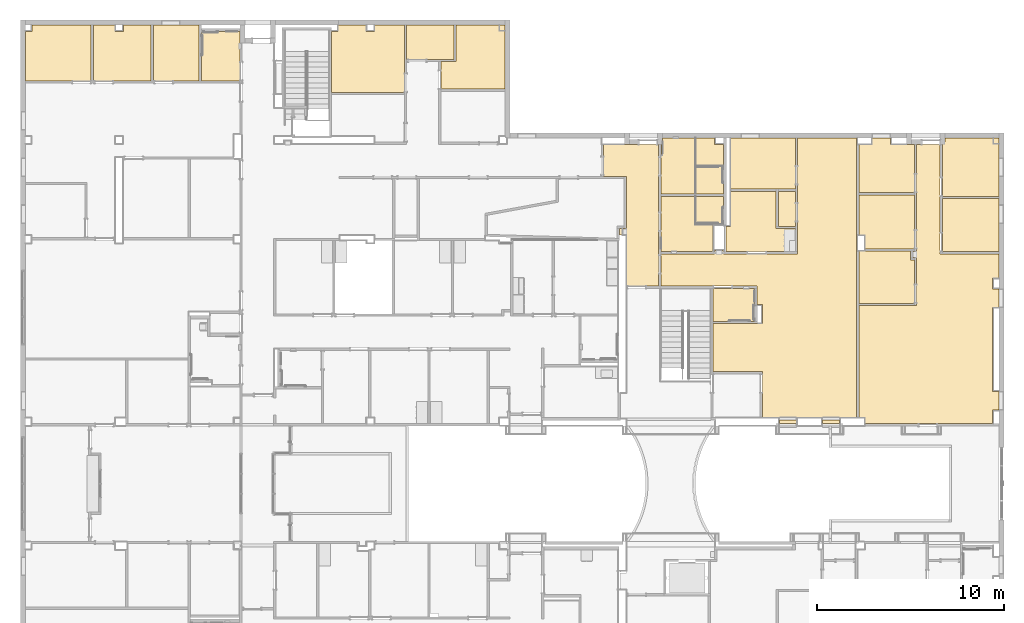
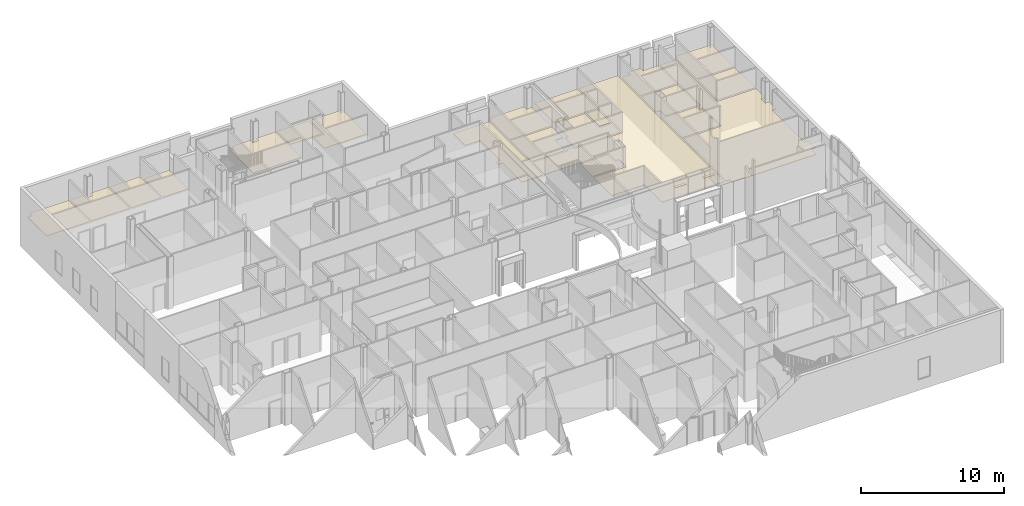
# One storey, part 54 of 82: 23 coverings.
"""IFC2X3 building model written with IfcOpenShell, lengths in metres."""

from ifc_helpers import new_model, entity, si_unit, converted_unit, origin, place, context, project, spatial, face_set, surface_model, material, layer, layer_set, layer_usage, element, save


model = new_model("IFC2X3")

# Units and contexts
model_context = context("Model", 3, precision=1e-09, world=origin())
plan_context = context("Plan", 3, precision=1e-09, world=origin())
ifc_project = project(units=[si_unit("LENGTHUNIT", "METRE"), si_unit("AREAUNIT", "SQUARE_METRE"), si_unit("VOLUMEUNIT", "CUBIC_METRE"), converted_unit("PLANEANGLEUNIT", "DEGREE", entity("IfcRatioMeasure", 0.01745329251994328), si_unit("PLANEANGLEUNIT", "RADIAN"), dimensions=[0, 0, 0, 0, 0, 0, 0]), si_unit("TIMEUNIT", "SECOND")], contexts=[model_context, plan_context])

# Site, building, storey
site_placement = place(None, origin())
site = spatial("IfcSite", under=ifc_project, at=site_placement, Name="Default", CompositionType="ELEMENT")
building_placement = place(site_placement, origin())
building = spatial("IfcBuilding", under=site, at=building_placement, CompositionType="ELEMENT")
storey_placement = place(building_placement, origin())
storey = spatial("IfcBuildingStorey", under=building, at=storey_placement, Name="First Floor", CompositionType="ELEMENT", Elevation=-3.531500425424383e-13)

# Coverings
ifc_material_1 = material(Name="Metal - Stud Layer")
ifc_layer_1 = layer(ifc_material_1, 0.045)
ifc_material_2 = material(Name="Plasterboard")
ifc_layer_2 = layer(ifc_material_2, 0.012)
ifc_layer_set_1 = layer_set([ifc_layer_1, ifc_layer_2], Name="Compound Ceiling:Gypsum Board")
ifc_layer_usage_1 = layer_usage(ifc_layer_set_1, "AXIS3", "NEGATIVE", 0.0)
covering_1_placement = place(storey_placement, origin())
element("IfcCovering", 1, at=covering_1_placement, inside=storey, material=ifc_layer_usage_1, Name="Compound Ceiling:Gypsum Board", ObjectType="Compound Ceiling:Gypsum Board", PredefinedType="CEILING", context=model_context, shape_type="SurfaceModel", body=[
    surface_model("IfcFaceBasedSurfaceModel", [(-10.7300000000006, 35.11599999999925, 3.857), (-10.7300000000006, 34.90399999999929, 3.857), (-11.65000000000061, 34.90399999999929, 3.857), (-11.65000000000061, 35.11599999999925, 3.857), (-10.7300000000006, 35.11599999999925, 3.8), (-10.7300000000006, 34.90399999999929, 3.8), (-11.65000000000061, 34.90399999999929, 3.8), (-11.65000000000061, 35.11599999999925, 3.8)], [face_set([[[0, 1, 2, 3]], [[4, 5, 6, 7]], [[3, 7, 4, 0]], [[2, 6, 7, 3]], [[1, 2, 6, 5]], [[0, 1, 5, 4]]])]),
])
ifc_material_3 = material(Name="Default")
ifc_layer_3 = layer(ifc_material_3, 0.03599999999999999)
ifc_material_4 = material(Name="Ceiling Tile 600 x 600")
ifc_layer_4 = layer(ifc_material_4, 0.016)
ifc_layer_set_2 = layer_set([ifc_layer_3, ifc_layer_4], Name="Compound Ceiling:ACT 600 x 600mm Grid")
ifc_layer_usage_2 = layer_usage(ifc_layer_set_2, "AXIS3", "NEGATIVE", 0.0)
covering_2_placement = place(storey_placement, origin())
element("IfcCovering", 2, at=covering_2_placement, inside=storey, material=ifc_layer_usage_2, Name="Compound Ceiling:ACT 600 x 600mm Grid", ObjectType="Compound Ceiling:ACT 600 x 600mm Grid", PredefinedType="CEILING", context=model_context, shape_type="SurfaceModel", body=[
    surface_model("IfcFaceBasedSurfaceModel", [(-10.67000000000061, 43.98999999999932, 2.732), (-14.63999971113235, 43.98999999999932, 2.732), (-14.63999971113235, 44.18499999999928, 2.732), (-15.10997528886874, 44.18499999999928, 2.732), (-15.10997528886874, 43.98999999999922, 2.732), (-17.9960000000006, 43.98999999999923, 2.732), (-17.9960000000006, 42.28000069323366, 2.732), (-12.85000000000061, 42.28000069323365, 2.732), (-12.85000000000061, 41.27999999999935, 2.732), (-12.56000000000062, 41.27999999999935, 2.732), (-12.56000000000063, 40.25999999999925, 2.732), (-15.19600000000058, 40.25999999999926, 2.732), (-15.19600000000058, 37.69999999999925, 2.732), (-12.56000000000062, 37.69999999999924, 2.732), (-12.56000000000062, 35.23999999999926, 2.732), (-11.71200000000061, 35.23999999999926, 2.732), (-10.6680000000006, 35.23999999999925, 2.732), (-9.402000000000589, 35.23999999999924, 2.732), (-8.358000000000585, 35.23999999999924, 2.732), (-7.510000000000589, 35.23999999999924, 2.732), (-7.510000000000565, 50.20299999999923, 2.732), (-10.6700000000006, 50.20299999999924, 2.732), (-10.67000000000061, 43.98999999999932, 2.68), (-10.6700000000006, 50.20299999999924, 2.68), (-7.510000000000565, 50.20299999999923, 2.68), (-7.510000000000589, 35.23999999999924, 2.68), (-8.358000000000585, 35.23999999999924, 2.68), (-9.402000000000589, 35.23999999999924, 2.68), (-10.6680000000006, 35.23999999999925, 2.68), (-11.71200000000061, 35.23999999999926, 2.68), (-12.56000000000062, 35.23999999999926, 2.68), (-12.56000000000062, 37.69999999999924, 2.68), (-15.19600000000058, 37.69999999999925, 2.68), (-15.19600000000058, 40.25999999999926, 2.68), (-12.56000000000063, 40.25999999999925, 2.68), (-12.56000000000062, 41.27999999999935, 2.68), (-12.85000000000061, 41.27999999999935, 2.68), (-12.85000000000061, 42.28000069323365, 2.68), (-17.9960000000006, 42.28000069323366, 2.68), (-17.9960000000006, 43.98999999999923, 2.68), (-15.10997528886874, 43.98999999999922, 2.68), (-15.10997528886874, 44.18499999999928, 2.68), (-14.63999971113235, 44.18499999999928, 2.68), (-14.63999971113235, 43.98999999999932, 2.68)], [face_set([[[0, 1, 2, 3, 4, 5, 6, 7, 8, 9, 10, 11, 12, 13, 14, 15, 16, 17, 18, 19, 20, 21]], [[22, 23, 24, 25, 26, 27, 28, 29, 30, 31, 32, 33, 34, 35, 36, 37, 38, 39, 40, 41, 42, 43]], [[1, 43, 22, 0]], [[2, 1, 43, 42]], [[3, 41, 42, 2]], [[4, 40, 41, 3]], [[5, 39, 40, 4]], [[6, 38, 39, 5]], [[7, 6, 38, 37]], [[8, 36, 37, 7]], [[9, 8, 36, 35]], [[10, 34, 35, 9]], [[11, 33, 34, 10]], [[12, 32, 33, 11]], [[13, 12, 32, 31]], [[14, 30, 31, 13]], [[15, 14, 30, 29]], [[16, 15, 29, 28]], [[17, 16, 28, 27]], [[18, 17, 27, 26]], [[19, 18, 26, 25]], [[20, 19, 25, 24]], [[21, 23, 24, 20]], [[0, 22, 23, 21]]])]),
])
covering_3_placement = place(storey_placement, origin())
element("IfcCovering", 3, at=covering_3_placement, inside=storey, material=ifc_layer_usage_2, Name="Compound Ceiling:ACT 600 x 600mm Grid", ObjectType="Compound Ceiling:ACT 600 x 600mm Grid", PredefinedType="CEILING", context=model_context, shape_type="SurfaceModel", body=[
    surface_model("IfcFaceBasedSurfaceModel", [(-10.79400000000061, 47.33499999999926, 2.732), (-10.79400000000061, 45.47399999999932, 2.732), (-11.69600000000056, 45.47399999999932, 2.732), (-11.69600000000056, 47.33499999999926, 2.732), (-10.79400000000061, 47.33499999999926, 2.68), (-10.79400000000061, 45.47399999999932, 2.68), (-11.69600000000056, 45.47399999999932, 2.68), (-11.69600000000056, 47.33499999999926, 2.68)], [face_set([[[0, 1, 2, 3]], [[4, 5, 6, 7]], [[3, 7, 4, 0]], [[2, 6, 7, 3]], [[1, 2, 6, 5]], [[0, 1, 5, 4]]])]),
])
covering_4_placement = place(storey_placement, origin())
element("IfcCovering", 4, at=covering_4_placement, inside=storey, material=ifc_layer_usage_2, Name="Compound Ceiling:ACT 600 x 600mm Grid", ObjectType="Compound Ceiling:ACT 600 x 600mm Grid", PredefinedType="CEILING", context=model_context, shape_type="SurfaceModel", body=[
    surface_model("IfcFaceBasedSurfaceModel", [(-7.386000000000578, 41.35399999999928, 2.732), (-7.386000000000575, 44.13999999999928, 2.732), (-4.621500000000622, 44.13999999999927, 2.732), (-4.621500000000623, 43.66599999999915, 2.732), (-4.424000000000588, 43.66599999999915, 2.732), (-4.424000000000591, 41.35399999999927, 2.732), (-7.386000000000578, 41.35399999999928, 2.68), (-7.386000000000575, 44.13999999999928, 2.68), (-4.621500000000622, 44.13999999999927, 2.68), (-4.621500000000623, 43.66599999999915, 2.68), (-4.424000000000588, 43.66599999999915, 2.68), (-4.424000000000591, 41.35399999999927, 2.68)], [face_set([[[0, 1, 2, 3, 4, 5]], [[6, 7, 8, 9, 10, 11]], [[5, 0, 6, 11]], [[4, 5, 11, 10]], [[3, 9, 10, 4]], [[2, 3, 9, 8]], [[1, 7, 8, 2]], [[0, 6, 7, 1]]])]),
])
covering_5_placement = place(storey_placement, origin())
element("IfcCovering", 5, at=covering_5_placement, inside=storey, material=ifc_layer_usage_2, Name="Compound Ceiling:ACT 600 x 600mm Grid", ObjectType="Compound Ceiling:ACT 600 x 600mm Grid", PredefinedType="CEILING", context=model_context, shape_type="SurfaceModel", body=[
    surface_model("IfcFaceBasedSurfaceModel", [(-26.32700000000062, 56.25299999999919, 2.732), (-26.32700000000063, 52.81399999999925, 2.732), (-29.76600000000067, 52.81399999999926, 2.732), (-29.76600000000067, 54.28659999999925, 2.732), (-28.95000000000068, 54.28659999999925, 2.732), (-28.95000000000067, 56.2529999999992, 2.732), (-26.32700000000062, 56.25299999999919, 2.68), (-26.32700000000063, 52.81399999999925, 2.68), (-29.76600000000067, 52.81399999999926, 2.68), (-29.76600000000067, 54.28659999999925, 2.68), (-28.95000000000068, 54.28659999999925, 2.68), (-28.95000000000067, 56.2529999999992, 2.68)], [face_set([[[0, 1, 2, 3, 4, 5]], [[6, 7, 8, 9, 10, 11]], [[5, 11, 6, 0]], [[4, 10, 11, 5]], [[3, 9, 10, 4]], [[2, 8, 9, 3]], [[1, 2, 8, 7]], [[0, 1, 7, 6]]])]),
])
covering_6_placement = place(storey_placement, origin())
element("IfcCovering", 6, at=covering_6_placement, inside=storey, material=ifc_layer_usage_2, Name="Compound Ceiling:ACT 600 x 600mm Grid", ObjectType="Compound Ceiling:ACT 600 x 600mm Grid", PredefinedType="CEILING", context=model_context, shape_type="SurfaceModel", body=[
    surface_model("IfcFaceBasedSurfaceModel", [(-35.28000000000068, 56.25299999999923, 2.732), (-35.28000000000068, 55.90999999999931, 2.732), (-35.61600000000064, 55.90999999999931, 2.732), (-35.61600000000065, 52.64399999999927, 2.732), (-31.72400000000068, 52.64399999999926, 2.732), (-31.72400000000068, 56.25299999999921, 2.732), (-33.32000000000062, 56.25299999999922, 2.732), (-33.32000000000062, 55.90999999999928, 2.732), (-33.78000000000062, 55.90999999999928, 2.732), (-33.78000000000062, 56.25299999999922, 2.732), (-35.28000000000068, 56.25299999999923, 2.68), (-33.78000000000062, 56.25299999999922, 2.68), (-33.78000000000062, 55.90999999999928, 2.68), (-33.32000000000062, 55.90999999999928, 2.68), (-33.32000000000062, 56.25299999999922, 2.68), (-31.72400000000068, 56.25299999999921, 2.68), (-31.72400000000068, 52.64399999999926, 2.68), (-35.61600000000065, 52.64399999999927, 2.68), (-35.61600000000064, 55.90999999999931, 2.68), (-35.28000000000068, 55.90999999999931, 2.68)], [face_set([[[0, 1, 2, 3, 4, 5, 6, 7, 8, 9]], [[10, 11, 12, 13, 14, 15, 16, 17, 18, 19]], [[2, 18, 19, 1]], [[3, 17, 18, 2]], [[4, 3, 17, 16]], [[5, 4, 16, 15]], [[6, 14, 15, 5]], [[7, 13, 14, 6]], [[8, 12, 13, 7]], [[9, 8, 12, 11]], [[0, 10, 11, 9]], [[1, 19, 10, 0]]])]),
])
covering_7_placement = place(storey_placement, origin())
element("IfcCovering", 7, at=covering_7_placement, inside=storey, material=ifc_layer_usage_2, Name="Compound Ceiling:ACT 600 x 600mm Grid", ObjectType="Compound Ceiling:ACT 600 x 600mm Grid", PredefinedType="CEILING", context=model_context, shape_type="SurfaceModel", body=[
    surface_model("IfcFaceBasedSurfaceModel", [(-31.60000000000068, 54.41059999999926, 2.732), (-31.60000000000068, 56.25299999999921, 2.732), (-29.07400000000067, 56.2529999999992, 2.732), (-29.07400000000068, 54.41059999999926, 2.732), (-31.60000000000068, 54.41059999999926, 2.68), (-31.60000000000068, 56.25299999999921, 2.68), (-29.07400000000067, 56.2529999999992, 2.68), (-29.07400000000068, 54.41059999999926, 2.68)], [face_set([[[0, 1, 2, 3]], [[4, 5, 6, 7]], [[3, 0, 4, 7]], [[2, 3, 7, 6]], [[1, 5, 6, 2]], [[0, 4, 5, 1]]])]),
])
covering_8_placement = place(storey_placement, origin())
element("IfcCovering", 8, at=covering_8_placement, inside=storey, material=ifc_layer_usage_2, Name="Compound Ceiling:ACT 600 x 600mm Grid", ObjectType="Compound Ceiling:ACT 600 x 600mm Grid", PredefinedType="CEILING", context=model_context, shape_type="SurfaceModel", body=[
    surface_model("IfcFaceBasedSurfaceModel", [(-14.51600000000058, 45.46500003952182, 2.732), (-14.26000000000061, 45.46500003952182, 2.732), (-14.26000000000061, 47.33499999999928, 2.732), (-11.82000000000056, 47.33499999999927, 2.732), (-11.82000000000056, 45.34999999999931, 2.732), (-10.79400000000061, 45.34999999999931, 2.732), (-10.79400000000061, 44.11399999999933, 2.732), (-14.51600000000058, 44.11399999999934, 2.732), (-14.51600000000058, 45.46500003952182, 2.68), (-14.51600000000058, 44.11399999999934, 2.68), (-10.79400000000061, 44.11399999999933, 2.68), (-10.79400000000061, 45.34999999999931, 2.68), (-11.82000000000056, 45.34999999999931, 2.68), (-11.82000000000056, 47.33499999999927, 2.68), (-14.26000000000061, 47.33499999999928, 2.68), (-14.26000000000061, 45.46500003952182, 2.68)], [face_set([[[0, 1, 2, 3, 4, 5, 6, 7]], [[8, 9, 10, 11, 12, 13, 14, 15]], [[7, 9, 8, 0]], [[6, 7, 9, 10]], [[5, 6, 10, 11]], [[4, 12, 11, 5]], [[3, 4, 12, 13]], [[2, 14, 13, 3]], [[1, 15, 14, 2]], [[0, 8, 15, 1]]])]),
])
covering_9_placement = place(storey_placement, origin())
element("IfcCovering", 9, at=covering_9_placement, inside=storey, material=ifc_layer_usage_2, Name="Compound Ceiling:ACT 600 x 600mm Grid", ObjectType="Compound Ceiling:ACT 600 x 600mm Grid", PredefinedType="CEILING", context=model_context, shape_type="SurfaceModel", body=[
    surface_model("IfcFaceBasedSurfaceModel", [(-17.99600000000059, 49.97649999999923, 2.732), (-17.90300000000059, 49.97649999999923, 2.732), (-17.90300000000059, 50.20299999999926, 2.732), (-15.10997500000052, 50.20299999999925, 2.732), (-15.10997500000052, 49.85999999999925, 2.732), (-14.64000000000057, 49.85999999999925, 2.732), (-14.64000000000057, 47.20399999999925, 2.732), (-17.99600000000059, 47.20399999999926, 2.732), (-17.99600000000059, 49.97649999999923, 2.68), (-17.99600000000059, 47.20399999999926, 2.68), (-14.64000000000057, 47.20399999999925, 2.68), (-14.64000000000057, 49.85999999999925, 2.68), (-15.10997500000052, 49.85999999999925, 2.68), (-15.10997500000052, 50.20299999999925, 2.68), (-17.90300000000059, 50.20299999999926, 2.68), (-17.90300000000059, 49.97649999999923, 2.68)], [face_set([[[0, 1, 2, 3, 4, 5, 6, 7]], [[8, 9, 10, 11, 12, 13, 14, 15]], [[7, 9, 8, 0]], [[6, 7, 9, 10]], [[5, 6, 10, 11]], [[4, 12, 11, 5]], [[3, 4, 12, 13]], [[2, 14, 13, 3]], [[1, 15, 14, 2]], [[0, 8, 15, 1]]])]),
])
covering_10_placement = place(storey_placement, origin())
element("IfcCovering", 10, at=covering_10_placement, inside=storey, material=ifc_layer_usage_2, Name="Compound Ceiling:ACT 600 x 600mm Grid", ObjectType="Compound Ceiling:ACT 600 x 600mm Grid", PredefinedType="CEILING", context=model_context, shape_type="SurfaceModel", body=[
    surface_model("IfcFaceBasedSurfaceModel", [(0.1129999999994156, 50.20299999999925, 2.732), (0.1129999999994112, 47.07399999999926, 2.732), (-2.916000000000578, 47.07399999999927, 2.732), (-2.916000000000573, 49.97649999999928, 2.732), (-2.773000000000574, 49.97649999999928, 2.732), (-2.773000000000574, 50.20299999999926, 2.732), (0.1129999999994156, 50.20299999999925, 2.68), (0.1129999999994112, 47.07399999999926, 2.68), (-2.916000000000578, 47.07399999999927, 2.68), (-2.916000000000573, 49.97649999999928, 2.68), (-2.773000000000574, 49.97649999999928, 2.68), (-2.773000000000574, 50.20299999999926, 2.68)], [face_set([[[0, 1, 2, 3, 4, 5]], [[6, 7, 8, 9, 10, 11]], [[5, 11, 6, 0]], [[4, 10, 11, 5]], [[3, 9, 10, 4]], [[2, 8, 9, 3]], [[1, 2, 8, 7]], [[0, 1, 7, 6]]])]),
])
covering_11_placement = place(storey_placement, origin())
element("IfcCovering", 11, at=covering_11_placement, inside=storey, material=ifc_layer_usage_2, Name="Compound Ceiling:ACT 600 x 600mm Grid", ObjectType="Compound Ceiling:ACT 600 x 600mm Grid", PredefinedType="CEILING", context=model_context, shape_type="SurfaceModel", body=[
    surface_model("IfcFaceBasedSurfaceModel", [(-14.26000000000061, 47.45899999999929, 2.732), (-14.26000000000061, 50.20299999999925, 2.732), (-10.7940000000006, 50.20299999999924, 2.732), (-10.79400000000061, 47.45899999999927, 2.732), (-11.75800000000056, 47.45899999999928, 2.732), (-14.26000000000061, 47.45899999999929, 2.68), (-14.26000000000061, 50.20299999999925, 2.68), (-10.7940000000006, 50.20299999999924, 2.68), (-10.79400000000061, 47.45899999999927, 2.68), (-11.75800000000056, 47.45899999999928, 2.68)], [face_set([[[0, 1, 2, 3, 4]], [[5, 6, 7, 8, 9]], [[4, 0, 5, 9]], [[3, 4, 9, 8]], [[2, 3, 8, 7]], [[1, 6, 7, 2]], [[0, 5, 6, 1]]])]),
])
covering_12_placement = place(storey_placement, origin())
element("IfcCovering", 12, at=covering_12_placement, inside=storey, material=ifc_layer_usage_2, Name="Compound Ceiling:ACT 600 x 600mm Grid", ObjectType="Compound Ceiling:ACT 600 x 600mm Grid", PredefinedType="CEILING", context=model_context, shape_type="SurfaceModel", body=[
    surface_model("IfcFaceBasedSurfaceModel", [(-17.9960000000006, 44.11399999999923, 2.732), (-17.99600000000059, 47.07999999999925, 2.732), (-14.64000000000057, 47.07999999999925, 2.732), (-14.64000000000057, 45.55500079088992, 2.732), (-15.23397500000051, 45.55500079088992, 2.732), (-15.23397500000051, 44.27699999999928, 2.732), (-15.23397500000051, 44.11399999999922, 2.732), (-17.9960000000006, 44.11399999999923, 2.68), (-17.99600000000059, 47.07999999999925, 2.68), (-14.64000000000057, 47.07999999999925, 2.68), (-14.64000000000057, 45.55500079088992, 2.68), (-15.23397500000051, 45.55500079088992, 2.68), (-15.23397500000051, 44.27699999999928, 2.68), (-15.23397500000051, 44.11399999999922, 2.68)], [face_set([[[0, 1, 2, 3, 4, 5, 6]], [[7, 8, 9, 10, 11, 12, 13]], [[6, 0, 7, 13]], [[5, 6, 13, 12]], [[4, 5, 12, 11]], [[3, 4, 11, 10]], [[2, 3, 10, 9]], [[1, 8, 9, 2]], [[0, 7, 8, 1]]])]),
])
covering_13_placement = place(storey_placement, origin())
element("IfcCovering", 13, at=covering_13_placement, inside=storey, material=ifc_layer_usage_2, Name="Compound Ceiling:ACT 600 x 600mm Grid", ObjectType="Compound Ceiling:ACT 600 x 600mm Grid", PredefinedType="CEILING", context=model_context, shape_type="SurfaceModel", body=[
    surface_model("IfcFaceBasedSurfaceModel", [(-3.040000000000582, 43.98999999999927, 2.732), (0.1129999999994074, 43.98999999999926, 2.732), (0.1129999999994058, 42.70670225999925, 2.732), (-0.2300000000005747, 42.70670225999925, 2.732), (-0.2300000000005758, 42.12991185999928, 2.732), (0.1129999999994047, 42.12991185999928, 2.732), (0.1129999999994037, 41.12991185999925, 2.732), (-0.2300000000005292, 41.12991185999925, 2.732), (-0.2300000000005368, 36.62991185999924, 2.732), (0.1129999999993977, 36.62991185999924, 2.732), (0.1129999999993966, 35.62991185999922, 2.732), (-0.2300000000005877, 35.62991185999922, 2.732), (-0.2300000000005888, 34.90399999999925, 2.732), (-7.050000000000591, 34.90399999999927, 2.732), (-7.050000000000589, 35.23999999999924, 2.732), (-7.386000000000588, 35.23999999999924, 2.732), (-7.386000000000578, 41.22999999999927, 2.732), (-4.300000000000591, 41.22999999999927, 2.732), (-4.300000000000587, 43.78999999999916, 2.732), (-4.497500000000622, 43.78999999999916, 2.732), (-4.497500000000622, 44.13999999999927, 2.732), (-4.300000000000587, 44.13999999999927, 2.732), (-4.300000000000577, 49.84299999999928, 2.732), (-3.040000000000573, 49.84299999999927, 2.732), (-3.040000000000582, 43.98999999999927, 2.68), (0.1129999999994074, 43.98999999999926, 2.68), (0.1129999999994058, 42.70670225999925, 2.68), (-0.2300000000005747, 42.70670225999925, 2.68), (-0.2300000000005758, 42.12991185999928, 2.68), (0.1129999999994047, 42.12991185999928, 2.68), (0.1129999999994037, 41.12991185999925, 2.68), (-0.2300000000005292, 41.12991185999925, 2.68), (-0.2300000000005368, 36.62991185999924, 2.68), (0.1129999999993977, 36.62991185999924, 2.68), (0.1129999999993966, 35.62991185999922, 2.68), (-0.2300000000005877, 35.62991185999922, 2.68), (-0.2300000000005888, 34.90399999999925, 2.68), (-7.050000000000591, 34.90399999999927, 2.68), (-7.050000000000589, 35.23999999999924, 2.68), (-7.386000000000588, 35.23999999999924, 2.68), (-7.386000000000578, 41.22999999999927, 2.68), (-4.300000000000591, 41.22999999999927, 2.68), (-4.300000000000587, 43.78999999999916, 2.68), (-4.497500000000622, 43.78999999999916, 2.68), (-4.497500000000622, 44.13999999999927, 2.68), (-4.300000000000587, 44.13999999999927, 2.68), (-4.300000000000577, 49.84299999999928, 2.68), (-3.040000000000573, 49.84299999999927, 2.68)], [face_set([[[0, 1, 2, 3, 4, 5, 6, 7, 8, 9, 10, 11, 12, 13, 14, 15, 16, 17, 18, 19, 20, 21, 22, 23]], [[24, 25, 26, 27, 28, 29, 30, 31, 32, 33, 34, 35, 36, 37, 38, 39, 40, 41, 42, 43, 44, 45, 46, 47]], [[23, 0, 24, 47]], [[22, 46, 47, 23]], [[21, 45, 46, 22]], [[20, 44, 45, 21]], [[19, 43, 44, 20]], [[18, 19, 43, 42]], [[17, 41, 42, 18]], [[16, 40, 41, 17]], [[15, 39, 40, 16]], [[14, 15, 39, 38]], [[13, 37, 38, 14]], [[12, 13, 37, 36]], [[11, 12, 36, 35]], [[10, 11, 35, 34]], [[9, 10, 34, 33]], [[8, 32, 33, 9]], [[7, 8, 32, 31]], [[6, 7, 31, 30]], [[5, 6, 30, 29]], [[4, 28, 29, 5]], [[3, 4, 28, 27]], [[2, 3, 27, 26]], [[1, 2, 26, 25]], [[0, 24, 25, 1]]])]),
])
covering_14_placement = place(storey_placement, origin())
element("IfcCovering", 14, at=covering_14_placement, inside=storey, material=ifc_layer_usage_1, Name="Compound Ceiling:Gypsum Board", ObjectType="Compound Ceiling:Gypsum Board", PredefinedType="CEILING", context=model_context, shape_type="SurfaceModel", body=[
    surface_model("IfcFaceBasedSurfaceModel", [(-8.420000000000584, 35.11599999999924, 3.857), (-8.420000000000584, 34.90399999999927, 3.857), (-9.34000000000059, 34.90399999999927, 3.857), (-9.340000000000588, 35.11599999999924, 3.857), (-8.420000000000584, 35.11599999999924, 3.8), (-8.420000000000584, 34.90399999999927, 3.8), (-9.34000000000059, 34.90399999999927, 3.8), (-9.340000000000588, 35.11599999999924, 3.8)], [face_set([[[0, 1, 2, 3]], [[4, 5, 6, 7]], [[3, 7, 4, 0]], [[2, 6, 7, 3]], [[1, 2, 6, 5]], [[0, 1, 5, 4]]])]),
])
covering_15_placement = place(storey_placement, origin())
element("IfcCovering", 15, at=covering_15_placement, inside=storey, material=ifc_layer_usage_2, Name="Compound Ceiling:ACT 600 x 600mm Grid", ObjectType="Compound Ceiling:ACT 600 x 600mm Grid", PredefinedType="CEILING", context=model_context, shape_type="SurfaceModel", body=[
    surface_model("IfcFaceBasedSurfaceModel", [(-51.67000000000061, 56.25299999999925, 2.732), (-51.67000000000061, 55.90999999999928, 2.732), (-52.01300000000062, 55.90999999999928, 2.732), (-52.01300000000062, 53.26399999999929, 2.732), (-48.49400000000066, 53.26399999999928, 2.732), (-48.49400000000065, 56.25299999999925, 2.732), (-51.67000000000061, 56.25299999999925, 2.68), (-48.49400000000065, 56.25299999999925, 2.68), (-48.49400000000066, 53.26399999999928, 2.68), (-52.01300000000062, 53.26399999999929, 2.68), (-52.01300000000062, 55.90999999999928, 2.68), (-51.67000000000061, 55.90999999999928, 2.68)], [face_set([[[0, 1, 2, 3, 4, 5]], [[6, 7, 8, 9, 10, 11]], [[2, 10, 11, 1]], [[3, 9, 10, 2]], [[4, 3, 9, 8]], [[5, 4, 8, 7]], [[0, 6, 7, 5]], [[1, 11, 6, 0]]])]),
])
covering_16_placement = place(storey_placement, origin())
element("IfcCovering", 16, at=covering_16_placement, inside=storey, material=ifc_layer_usage_2, Name="Compound Ceiling:ACT 600 x 600mm Grid", ObjectType="Compound Ceiling:ACT 600 x 600mm Grid", PredefinedType="CEILING", context=model_context, shape_type="SurfaceModel", body=[
    surface_model("IfcFaceBasedSurfaceModel", [(-21.05600000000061, 49.84299999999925, 2.732), (-19.81550000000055, 49.84299999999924, 2.732), (-18.12000000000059, 49.84299999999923, 2.732), (-18.1200000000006, 42.28000069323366, 2.732), (-19.83000000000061, 42.28000069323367, 2.732), (-19.83000000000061, 45.00999999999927, 2.732), (-20.20500000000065, 45.00999999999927, 2.732), (-20.20500000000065, 45.35999999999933, 2.732), (-19.83000000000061, 45.35999999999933, 2.732), (-19.8300000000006, 48.14999999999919, 2.732), (-21.05600000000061, 48.14999999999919, 2.732), (-21.05600000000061, 49.84299999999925, 2.68), (-19.81550000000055, 49.84299999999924, 2.68), (-18.12000000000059, 49.84299999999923, 2.68), (-18.1200000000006, 42.28000069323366, 2.68), (-19.83000000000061, 42.28000069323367, 2.68), (-19.83000000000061, 45.00999999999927, 2.68), (-20.20500000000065, 45.00999999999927, 2.68), (-20.20500000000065, 45.35999999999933, 2.68), (-19.83000000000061, 45.35999999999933, 2.68), (-19.8300000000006, 48.14999999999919, 2.68), (-21.05600000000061, 48.14999999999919, 2.68)], [face_set([[[0, 1, 2, 3, 4, 5, 6, 7, 8, 9, 10]], [[11, 12, 13, 14, 15, 16, 17, 18, 19, 20, 21]], [[10, 21, 11, 0]], [[9, 10, 21, 20]], [[8, 19, 20, 9]], [[7, 18, 19, 8]], [[6, 17, 18, 7]], [[5, 6, 17, 16]], [[4, 15, 16, 5]], [[3, 4, 15, 14]], [[2, 3, 14, 13]], [[1, 12, 13, 2]], [[0, 11, 12, 1]]])]),
])
covering_17_placement = place(storey_placement, origin())
element("IfcCovering", 17, at=covering_17_placement, inside=storey, material=ifc_layer_usage_2, Name="Compound Ceiling:ACT 600 x 600mm Grid", ObjectType="Compound Ceiling:ACT 600 x 600mm Grid", PredefinedType="CEILING", context=model_context, shape_type="SurfaceModel", body=[
    surface_model("IfcFaceBasedSurfaceModel", [(-2.916000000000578, 46.94999999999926, 2.732), (0.1129999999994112, 46.94999999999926, 2.732), (0.1129999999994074, 44.11399999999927, 2.732), (-2.916000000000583, 44.11399999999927, 2.732), (-2.916000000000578, 46.94999999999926, 2.68), (0.1129999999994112, 46.94999999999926, 2.68), (0.1129999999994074, 44.11399999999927, 2.68), (-2.916000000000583, 44.11399999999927, 2.68)], [face_set([[[0, 1, 2, 3]], [[4, 5, 6, 7]], [[3, 7, 4, 0]], [[2, 3, 7, 6]], [[1, 2, 6, 5]], [[0, 4, 5, 1]]])]),
])
covering_18_placement = place(storey_placement, origin())
element("IfcCovering", 18, at=covering_18_placement, inside=storey, material=ifc_layer_usage_2, Name="Compound Ceiling:ACT 600 x 600mm Grid", ObjectType="Compound Ceiling:ACT 600 x 600mm Grid", PredefinedType="CEILING", context=model_context, shape_type="SurfaceModel", body=[
    surface_model("IfcFaceBasedSurfaceModel", [(-6.683997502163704, 50.20299999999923, 2.732), (-6.683997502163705, 49.84299999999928, 2.732), (-7.386000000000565, 49.84299999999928, 2.732), (-7.386000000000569, 47.27399999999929, 2.732), (-4.424000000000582, 47.27399999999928, 2.732), (-4.424000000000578, 49.84299999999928, 2.732), (-4.698500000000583, 49.84299999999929, 2.732), (-5.683997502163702, 49.84299999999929, 2.732), (-5.683997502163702, 50.20299999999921, 2.732), (-6.683997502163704, 50.20299999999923, 2.68), (-5.683997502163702, 50.20299999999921, 2.68), (-5.683997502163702, 49.84299999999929, 2.68), (-4.698500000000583, 49.84299999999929, 2.68), (-4.424000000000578, 49.84299999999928, 2.68), (-4.424000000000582, 47.27399999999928, 2.68), (-7.386000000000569, 47.27399999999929, 2.68), (-7.386000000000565, 49.84299999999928, 2.68), (-6.683997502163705, 49.84299999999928, 2.68)], [face_set([[[0, 1, 2, 3, 4, 5, 6, 7, 8]], [[9, 10, 11, 12, 13, 14, 15, 16, 17]], [[2, 16, 17, 1]], [[3, 15, 16, 2]], [[4, 3, 15, 14]], [[5, 4, 14, 13]], [[6, 12, 13, 5]], [[7, 11, 12, 6]], [[8, 7, 11, 10]], [[0, 9, 10, 8]], [[1, 17, 9, 0]]])]),
])
covering_19_placement = place(storey_placement, origin())
element("IfcCovering", 19, at=covering_19_placement, inside=storey, material=ifc_layer_usage_2, Name="Compound Ceiling:ACT 600 x 600mm Grid", ObjectType="Compound Ceiling:ACT 600 x 600mm Grid", PredefinedType="CEILING", context=model_context, shape_type="SurfaceModel", body=[
    surface_model("IfcFaceBasedSurfaceModel", [(-42.60000000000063, 55.90999999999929, 2.732), (-40.53700000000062, 55.90999999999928, 2.732), (-40.53700000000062, 55.42149999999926, 2.732), (-40.53700000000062, 53.26399999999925, 2.732), (-42.60000000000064, 53.26399999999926, 2.732), (-42.60000000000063, 55.90999999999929, 2.68), (-40.53700000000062, 55.90999999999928, 2.68), (-40.53700000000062, 55.42149999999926, 2.68), (-40.53700000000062, 53.26399999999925, 2.68), (-42.60000000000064, 53.26399999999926, 2.68)], [face_set([[[0, 1, 2, 3, 4]], [[5, 6, 7, 8, 9]], [[4, 9, 5, 0]], [[3, 4, 9, 8]], [[2, 3, 8, 7]], [[1, 2, 7, 6]], [[0, 5, 6, 1]]])]),
])
covering_20_placement = place(storey_placement, origin())
element("IfcCovering", 20, at=covering_20_placement, inside=storey, material=ifc_layer_usage_2, Name="Compound Ceiling:ACT 600 x 600mm Grid", ObjectType="Compound Ceiling:ACT 600 x 600mm Grid", PredefinedType="CEILING", context=model_context, shape_type="SurfaceModel", body=[
    surface_model("IfcFaceBasedSurfaceModel", [(-48.37000000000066, 53.26399999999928, 2.732), (-48.37000000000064, 56.25299999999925, 2.732), (-47.23000000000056, 56.25299999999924, 2.732), (-47.23000000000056, 55.90999999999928, 2.732), (-46.77000000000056, 55.90999999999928, 2.732), (-46.77000000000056, 56.25299999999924, 2.732), (-45.29400000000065, 56.25299999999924, 2.732), (-45.29400000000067, 53.26399999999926, 2.732), (-48.37000000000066, 53.26399999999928, 2.68), (-48.37000000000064, 56.25299999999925, 2.68), (-47.23000000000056, 56.25299999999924, 2.68), (-47.23000000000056, 55.90999999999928, 2.68), (-46.77000000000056, 55.90999999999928, 2.68), (-46.77000000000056, 56.25299999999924, 2.68), (-45.29400000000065, 56.25299999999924, 2.68), (-45.29400000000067, 53.26399999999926, 2.68)], [face_set([[[0, 1, 2, 3, 4, 5, 6, 7]], [[8, 9, 10, 11, 12, 13, 14, 15]], [[7, 0, 8, 15]], [[6, 7, 15, 14]], [[5, 13, 14, 6]], [[4, 12, 13, 5]], [[3, 11, 12, 4]], [[2, 3, 11, 10]], [[1, 9, 10, 2]], [[0, 8, 9, 1]]])]),
])
covering_21_placement = place(storey_placement, origin())
element("IfcCovering", 21, at=covering_21_placement, inside=storey, material=ifc_layer_usage_2, Name="Compound Ceiling:ACT 600 x 600mm Grid", ObjectType="Compound Ceiling:ACT 600 x 600mm Grid", PredefinedType="CEILING", context=model_context, shape_type="SurfaceModel", body=[
    surface_model("IfcFaceBasedSurfaceModel", [(-15.19600000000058, 40.38399999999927, 2.732), (-15.19600000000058, 42.15600069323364, 2.732), (-12.97400000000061, 42.15600069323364, 2.732), (-12.97400000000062, 41.21799999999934, 2.732), (-12.97400000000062, 40.38399999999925, 2.732), (-15.19600000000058, 40.38399999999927, 2.68), (-15.19600000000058, 42.15600069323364, 2.68), (-12.97400000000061, 42.15600069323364, 2.68), (-12.97400000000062, 41.21799999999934, 2.68), (-12.97400000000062, 40.38399999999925, 2.68)], [face_set([[[0, 1, 2, 3, 4]], [[5, 6, 7, 8, 9]], [[4, 0, 5, 9]], [[3, 4, 9, 8]], [[2, 3, 8, 7]], [[1, 6, 7, 2]], [[0, 5, 6, 1]]])]),
])
covering_22_placement = place(storey_placement, origin())
element("IfcCovering", 22, at=covering_22_placement, inside=storey, material=ifc_layer_usage_2, Name="Compound Ceiling:ACT 600 x 600mm Grid", ObjectType="Compound Ceiling:ACT 600 x 600mm Grid", PredefinedType="CEILING", context=model_context, shape_type="SurfaceModel", body=[
    surface_model("IfcFaceBasedSurfaceModel", [(-7.386000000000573, 45.00999999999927, 2.732), (-7.050000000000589, 45.00999999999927, 2.732), (-7.050000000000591, 44.26399999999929, 2.732), (-4.424000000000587, 44.26399999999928, 2.732), (-4.424000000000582, 47.14999999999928, 2.732), (-7.386000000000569, 47.14999999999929, 2.732), (-7.386000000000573, 45.00999999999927, 2.68), (-7.386000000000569, 47.14999999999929, 2.68), (-4.424000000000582, 47.14999999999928, 2.68), (-4.424000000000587, 44.26399999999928, 2.68), (-7.050000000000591, 44.26399999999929, 2.68), (-7.050000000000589, 45.00999999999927, 2.68)], [face_set([[[0, 1, 2, 3, 4, 5]], [[6, 7, 8, 9, 10, 11]], [[2, 10, 11, 1]], [[3, 2, 10, 9]], [[4, 3, 9, 8]], [[5, 7, 8, 4]], [[0, 6, 7, 5]], [[1, 0, 6, 11]]])]),
])
covering_23_placement = place(storey_placement, origin())
element("IfcCovering", 23, at=covering_23_placement, inside=storey, material=ifc_layer_usage_2, Name="Compound Ceiling:ACT 600 x 600mm Grid", ObjectType="Compound Ceiling:ACT 600 x 600mm Grid", PredefinedType="CEILING", context=model_context, shape_type="SurfaceModel", body=[
    surface_model("IfcFaceBasedSurfaceModel", [(-45.17000000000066, 53.26399999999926, 2.732), (-45.17000000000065, 56.25299999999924, 2.732), (-42.72400000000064, 56.25299999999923, 2.732), (-42.72400000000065, 53.26399999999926, 2.732), (-45.17000000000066, 53.26399999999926, 2.68), (-45.17000000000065, 56.25299999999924, 2.68), (-42.72400000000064, 56.25299999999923, 2.68), (-42.72400000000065, 53.26399999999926, 2.68)], [face_set([[[0, 1, 2, 3]], [[4, 5, 6, 7]], [[3, 0, 4, 7]], [[2, 3, 7, 6]], [[1, 5, 6, 2]], [[0, 4, 5, 1]]])]),
])

save(model, "model.ifc")
